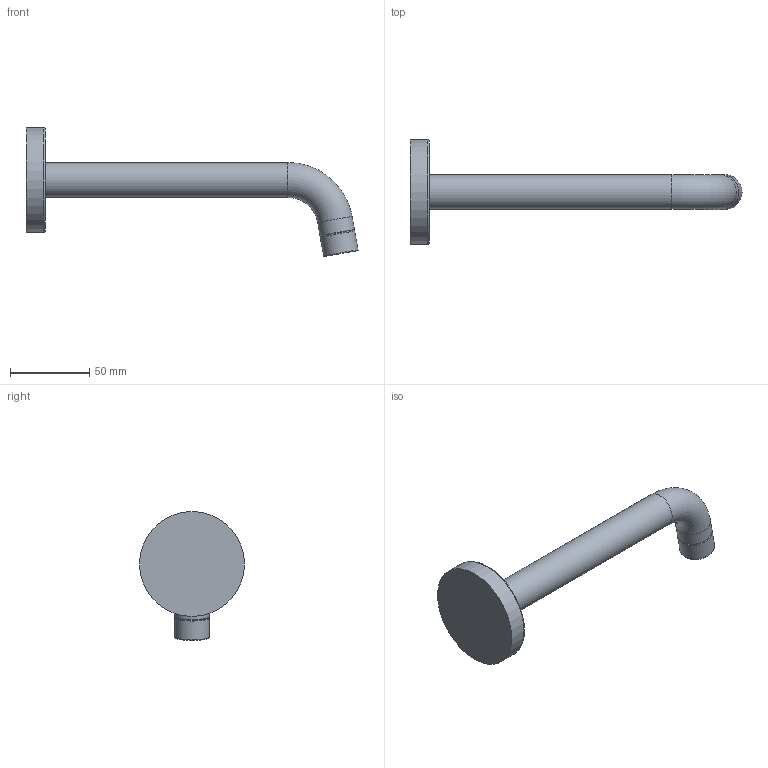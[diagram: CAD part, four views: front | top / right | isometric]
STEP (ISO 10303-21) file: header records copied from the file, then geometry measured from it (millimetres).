
FILE_DESCRIPTION(('STEP AP242'), '1');
FILE_NAME('78CR207CAN19', '', ('UNSPECIFIED'), ('UNSPECIFIED'), 'ASCON STEP Converter 1.6', 'ASCON Math Kernel', '');
FILE_SCHEMA(('AP242_MANAGED_MODEL_BASED_3D_ENGINEERING_MIM_LF { 1 0 10303 442 1 1 4 }'));
Length unit declared in the file: millimetre
Bounding box: 208.91 x 66 x 81.11 mm (x, y, z)
Volume: 123313.8 mm3; surface area: 24230.1 mm2
Topology: 1 solids, 1 shells, 12 faces, 21 edges, 12 vertices
Faces by surface type: torus 5, cylinder 4, plane 3
Full cylindrical faces by diameter (mm): 22 x3, 66 x1
Entity records: 375 total; most frequent: DIRECTION 50, CARTESIAN_POINT 37, AXIS2_PLACEMENT_3D 25, ORIENTED_EDGE 24, EDGE_LOOP 22, FACE_OUTER_BOUND 16, COLOUR_RGB 13, FILL_AREA_STYLE_COLOUR 13
